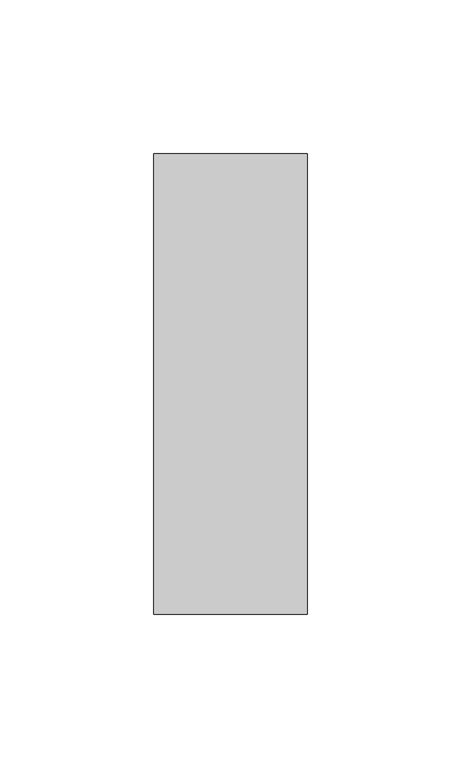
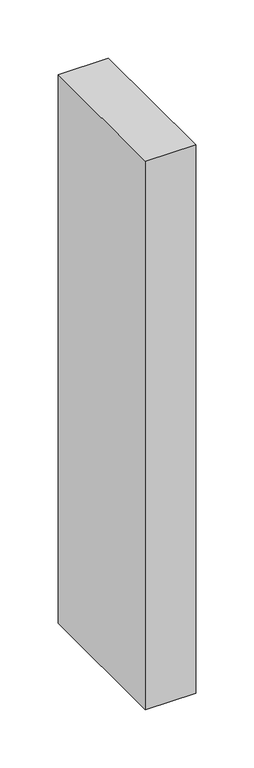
"""IFC4 building model written with IfcOpenShell, lengths in millimetres: member geometry, Прямоугольный импост : 50х150мм."""

from ifc_helpers import new_model, si_unit, frame, origin, place, context, project, spatial, polyline, outline, extrude, source, transform, mapped, element, save


def member_044d981f(model_context):
    return source(origin(), model_context, "Body", "SweptSolid", [
        extrude(outline(polyline([(25.0, 75.0), (25.0, -75.0), (-25.0, -75.0), (-25.0, 75.0), (25.0, 75.0)])), frame((0.0, 0.0, -576.1128016), z_axis=(0.0, 0.0, 1.0), x_axis=(1.0, 0.0, 0.0)), (0.0, 0.0, 1.0), 576.1128016),
    ])


if __name__ == "__main__":
    model = new_model("IFC4")
    model_context = context("Model", 3, world=origin())
    ifc_project = project(units=[si_unit("LENGTHUNIT", "METRE", prefix="MILLI")], contexts=[model_context])
    site = spatial("IfcSite", under=ifc_project)
    building = spatial("IfcBuilding", under=site)
    placement = place(None, origin())
    member_shape = member_044d981f(model_context)
    element("IfcMember", 1, ObjectType="Прямоугольный импост : 50х150мм", at=placement, inside=building, context=model_context, shape_type="MappedRepresentation", body=[
        mapped(member_shape, transform((0.0, 0.0, 0.0), x_axis=(1.0, 0.0, 0.0), y_axis=(0.0, 1.0, 0.0), z_axis=(0.0, 0.0, 1.0))),
    ])
    save(model, "model.ifc")
